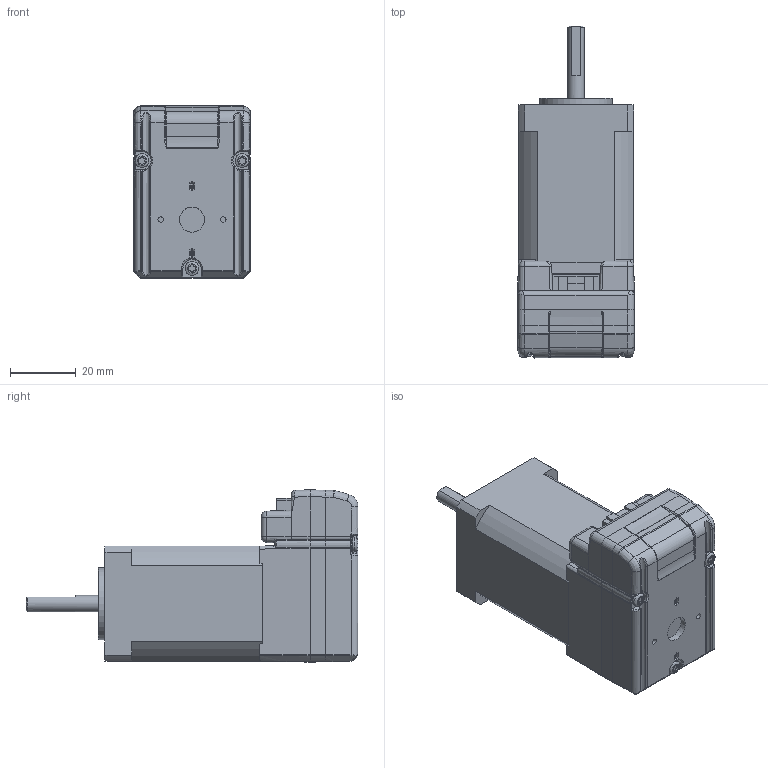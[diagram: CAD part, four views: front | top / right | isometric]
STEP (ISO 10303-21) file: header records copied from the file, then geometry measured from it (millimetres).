
FILE_DESCRIPTION(('MDI 14, Plus, 12 Pin JST, Triple Stack'),'1');
FILE_NAME('MDI 14, Plus, 12 Pin JST, Triple Stack.stp','2009-03-09T19:11:50',('P. Bordua'),('Intelligent Motion Systems, Inc.'),'Spatial Interop R18','Kubotek KeyCreator V8.0.1 (11344)','KC');
FILE_SCHEMA(('automotive_design'));
Length unit declared in the file: inch
Products named in the file (1): MDI 14, Plus, 12 Pin JST[1]
Bounding box: 35.75 x 100.96 x 52.38 mm (x, y, z)
Volume: 106757.4 mm3; surface area: 16400.3 mm2
Topology: 1 solids, 1 shells, 605 faces, 1757 edges, 1178 vertices
Faces by surface type: bspline 190, cylinder 185, plane 165, cone 47, torus 18
Full cylindrical faces by diameter (mm): 0.635 x12, 2.5 x4, 4.242 x3, 5 x1, 7.087 x1, 22 x1
Entity records: 57281 total; most frequent: CARTESIAN_POINT 27562, ORIENTED_EDGE 3404, PRESENTATION_STYLE_ASSIGNMENT 2914, COLOUR_RGB 2914, STYLED_ITEM 2308, CURVE_STYLE 2308, DRAUGHTING_PRE_DEFINED_CURVE_FONT 2308, DIRECTION 2161
